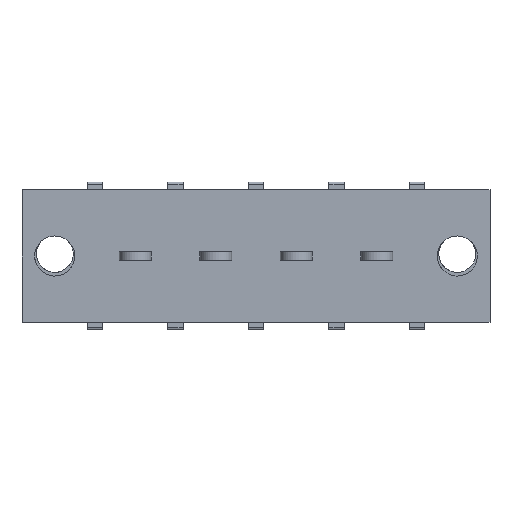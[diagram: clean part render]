
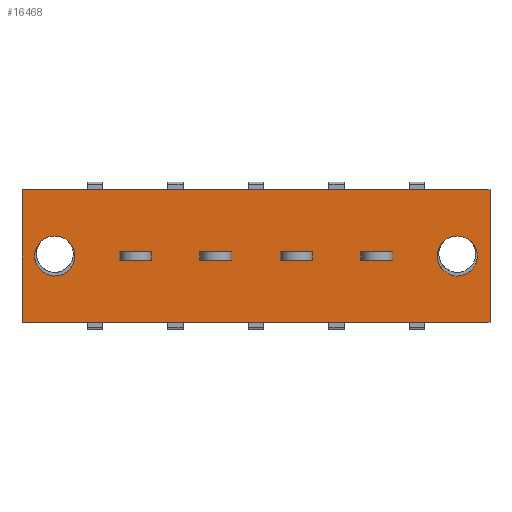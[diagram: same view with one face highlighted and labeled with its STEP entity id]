
A CAD part, front view. The second image highlights one B-rep face of the part: STEP entity #16468.
In plain terms, the highlighted planar face has unit normal (0, -1, 0).
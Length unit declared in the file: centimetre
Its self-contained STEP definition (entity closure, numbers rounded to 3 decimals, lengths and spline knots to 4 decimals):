
#780=PLANE('',#26870);
#1616=VECTOR('',#17753,1.);
#1811=VECTOR('',#18173,1.);
#1826=VECTOR('',#18192,1.);
#1840=VECTOR('',#18243,1.);
#1842=VECTOR('',#18246,1.);
#1891=VECTOR('',#18341,1.);
#1902=VECTOR('',#18355,1.);
#1903=VECTOR('',#18356,1.);
#1904=VECTOR('',#18357,1.);
#1905=VECTOR('',#18358,1.);
#1906=VECTOR('',#18359,1.);
#1907=VECTOR('',#18360,1.);
#1908=VECTOR('',#18361,1.);
#1909=VECTOR('',#18362,1.);
#1910=VECTOR('',#18363,1.);
#1911=VECTOR('',#18364,1.);
#1912=VECTOR('',#18365,1.);
#1913=VECTOR('',#18366,1.);
#1914=VECTOR('',#18367,1.);
#1915=VECTOR('',#18368,1.);
#3444=LINE('',#22021,#1616);
#3639=LINE('',#22636,#1811);
#3654=LINE('',#22669,#1826);
#3668=LINE('',#22718,#1840);
#3670=LINE('',#22722,#1842);
#3719=LINE('',#22843,#1891);
#3730=LINE('',#22866,#1902);
#3731=LINE('',#22869,#1903);
#3732=LINE('',#22871,#1904);
#3733=LINE('',#22873,#1905);
#3734=LINE('',#22874,#1906);
#3735=LINE('',#22877,#1907);
#3736=LINE('',#22879,#1908);
#3737=LINE('',#22881,#1909);
#3738=LINE('',#22882,#1910);
#3739=LINE('',#22885,#1911);
#3740=LINE('',#22887,#1912);
#3741=LINE('',#22889,#1913);
#3742=LINE('',#22890,#1914);
#3743=LINE('',#22892,#1915);
#5205=VERTEX_POINT('',#22020);
#5206=VERTEX_POINT('',#22022);
#5207=VERTEX_POINT('',#22026);
#5401=VERTEX_POINT('',#22637);
#5402=VERTEX_POINT('',#22638);
#5415=VERTEX_POINT('',#22670);
#5428=VERTEX_POINT('',#22719);
#5471=VERTEX_POINT('',#22844);
#5480=VERTEX_POINT('',#22865);
#5481=VERTEX_POINT('',#22867);
#5482=VERTEX_POINT('',#22868);
#5483=VERTEX_POINT('',#22870);
#5484=VERTEX_POINT('',#22872);
#5485=VERTEX_POINT('',#22875);
#5486=VERTEX_POINT('',#22876);
#5487=VERTEX_POINT('',#22878);
#5488=VERTEX_POINT('',#22880);
#5489=VERTEX_POINT('',#22883);
#5490=VERTEX_POINT('',#22884);
#5491=VERTEX_POINT('',#22886);
#5492=VERTEX_POINT('',#22888);
#5493=VERTEX_POINT('',#22891);
#6476=CIRCLE('',#26665,0.19);
#6550=CIRCLE('',#26871,0.19);
#7282=EDGE_CURVE('',#5206,#5205,#3444,.T.);
#7284=EDGE_CURVE('',#5207,#5207,#6476,.T.);
#7565=EDGE_CURVE('',#5401,#5402,#3639,.T.);
#7582=EDGE_CURVE('',#5415,#5401,#3654,.T.);
#7606=EDGE_CURVE('',#5428,#5415,#3668,.T.);
#7608=EDGE_CURVE('',#5402,#5428,#3670,.T.);
#7668=EDGE_CURVE('',#5471,#5205,#3719,.T.);
#7679=EDGE_CURVE('',#5480,#5480,#6550,.T.);
#7680=EDGE_CURVE('',#5481,#5482,#3730,.T.);
#7681=EDGE_CURVE('',#5482,#5483,#3731,.T.);
#7682=EDGE_CURVE('',#5483,#5484,#3732,.T.);
#7683=EDGE_CURVE('',#5484,#5481,#3733,.T.);
#7684=EDGE_CURVE('',#5485,#5486,#3734,.T.);
#7685=EDGE_CURVE('',#5486,#5487,#3735,.T.);
#7686=EDGE_CURVE('',#5487,#5488,#3736,.T.);
#7687=EDGE_CURVE('',#5488,#5485,#3737,.T.);
#7688=EDGE_CURVE('',#5489,#5490,#3738,.T.);
#7689=EDGE_CURVE('',#5490,#5491,#3739,.T.);
#7690=EDGE_CURVE('',#5491,#5492,#3740,.T.);
#7691=EDGE_CURVE('',#5492,#5489,#3741,.T.);
#7692=EDGE_CURVE('',#5493,#5206,#3742,.T.);
#7693=EDGE_CURVE('',#5493,#5471,#3743,.T.);
#10991=ORIENTED_EDGE('',*,*,#7284,.T.);
#10992=ORIENTED_EDGE('',*,*,#7679,.T.);
#10993=ORIENTED_EDGE('',*,*,#7582,.F.);
#10994=ORIENTED_EDGE('',*,*,#7606,.F.);
#10995=ORIENTED_EDGE('',*,*,#7608,.F.);
#10996=ORIENTED_EDGE('',*,*,#7565,.F.);
#10997=ORIENTED_EDGE('',*,*,#7680,.T.);
#10998=ORIENTED_EDGE('',*,*,#7681,.T.);
#10999=ORIENTED_EDGE('',*,*,#7682,.T.);
#11000=ORIENTED_EDGE('',*,*,#7683,.T.);
#11001=ORIENTED_EDGE('',*,*,#7684,.T.);
#11002=ORIENTED_EDGE('',*,*,#7685,.T.);
#11003=ORIENTED_EDGE('',*,*,#7686,.T.);
#11004=ORIENTED_EDGE('',*,*,#7687,.T.);
#11005=ORIENTED_EDGE('',*,*,#7688,.T.);
#11006=ORIENTED_EDGE('',*,*,#7689,.T.);
#11007=ORIENTED_EDGE('',*,*,#7690,.T.);
#11008=ORIENTED_EDGE('',*,*,#7691,.T.);
#11009=ORIENTED_EDGE('',*,*,#7692,.T.);
#11010=ORIENTED_EDGE('',*,*,#7282,.T.);
#11011=ORIENTED_EDGE('',*,*,#7668,.F.);
#11012=ORIENTED_EDGE('',*,*,#7693,.F.);
#14471=EDGE_LOOP('',(#10991));
#14472=EDGE_LOOP('',(#10992));
#14473=EDGE_LOOP('',(#10993,#10994,#10995,#10996));
#14474=EDGE_LOOP('',(#10997,#10998,#10999,#11000));
#14475=EDGE_LOOP('',(#11001,#11002,#11003,#11004));
#14476=EDGE_LOOP('',(#11005,#11006,#11007,#11008));
#14477=EDGE_LOOP('',(#11009,#11010,#11011,#11012));
#15489=FACE_BOUND('',#14471,.T.);
#15490=FACE_BOUND('',#14472,.T.);
#15491=FACE_BOUND('',#14473,.T.);
#15492=FACE_BOUND('',#14474,.T.);
#15493=FACE_BOUND('',#14475,.T.);
#15494=FACE_BOUND('',#14476,.T.);
#15495=FACE_BOUND('',#14477,.T.);
#16468=ADVANCED_FACE('',(#15489,#15490,#15491,#15492,#15493,#15494,#15495),
#780,.T.);
#17753=DIRECTION('',(0.,0.,1.));
#17757=DIRECTION('',(0.,1.,0.));
#17758=DIRECTION('',(0.19,0.,0.));
#18173=DIRECTION('',(0.,0.,1.));
#18192=DIRECTION('',(1.,0.,0.));
#18243=DIRECTION('',(0.,0.,-1.));
#18246=DIRECTION('',(-1.,0.,0.));
#18341=DIRECTION('',(1.,0.,0.));
#18352=DIRECTION('',(0.,-1.,0.));
#18353=DIRECTION('',(0.,1.,0.));
#18354=DIRECTION('',(0.19,0.,0.));
#18355=DIRECTION('',(-1.,0.,0.));
#18356=DIRECTION('',(0.,0.,1.));
#18357=DIRECTION('',(1.,0.,0.));
#18358=DIRECTION('',(0.,0.,-1.));
#18359=DIRECTION('',(-1.,0.,0.));
#18360=DIRECTION('',(0.,0.,1.));
#18361=DIRECTION('',(1.,0.,0.));
#18362=DIRECTION('',(0.,0.,-1.));
#18363=DIRECTION('',(-1.,0.,0.));
#18364=DIRECTION('',(0.,0.,1.));
#18365=DIRECTION('',(1.,0.,0.));
#18366=DIRECTION('',(0.,0.,-1.));
#18367=DIRECTION('',(1.,0.,0.));
#18368=DIRECTION('',(0.,0.,1.));
#22020=CARTESIAN_POINT('',(3.048,0.,0.625));
#22021=CARTESIAN_POINT('',(3.048,0.,-0.625));
#22022=CARTESIAN_POINT('',(3.048,0.,-0.625));
#22025=CARTESIAN_POINT('',(2.738,0.,0.));
#22026=CARTESIAN_POINT('',(2.548,0.,0.));
#22636=CARTESIAN_POINT('',(-0.185,0.,0.));
#22637=CARTESIAN_POINT('',(-0.185,0.,-0.04));
#22638=CARTESIAN_POINT('',(-0.185,0.,0.04));
#22669=CARTESIAN_POINT('',(-0.465,0.,-0.04));
#22670=CARTESIAN_POINT('',(-0.435,0.,-0.04));
#22718=CARTESIAN_POINT('',(-0.435,0.,0.));
#22719=CARTESIAN_POINT('',(-0.435,0.,0.04));
#22722=CARTESIAN_POINT('',(-0.465,0.,0.04));
#22843=CARTESIAN_POINT('',(-1.382,0.,0.625));
#22844=CARTESIAN_POINT('',(-1.382,0.,0.625));
#22863=CARTESIAN_POINT('',(0.,0.,0.));
#22864=CARTESIAN_POINT('',(-1.072,0.,0.));
#22865=CARTESIAN_POINT('',(-1.262,0.,0.));
#22866=CARTESIAN_POINT('',(0.988,0.,-0.04));
#22867=CARTESIAN_POINT('',(2.101,0.,-0.04));
#22868=CARTESIAN_POINT('',(1.851,0.,-0.04));
#22869=CARTESIAN_POINT('',(1.851,0.,0.));
#22870=CARTESIAN_POINT('',(1.851,0.,0.04));
#22871=CARTESIAN_POINT('',(0.988,0.,0.04));
#22872=CARTESIAN_POINT('',(2.101,0.,0.04));
#22873=CARTESIAN_POINT('',(2.101,0.,0.));
#22874=CARTESIAN_POINT('',(0.607,0.,-0.04));
#22875=CARTESIAN_POINT('',(1.339,0.,-0.04));
#22876=CARTESIAN_POINT('',(1.089,0.,-0.04));
#22877=CARTESIAN_POINT('',(1.089,0.,0.));
#22878=CARTESIAN_POINT('',(1.089,0.,0.04));
#22879=CARTESIAN_POINT('',(0.607,0.,0.04));
#22880=CARTESIAN_POINT('',(1.339,0.,0.04));
#22881=CARTESIAN_POINT('',(1.339,0.,0.));
#22882=CARTESIAN_POINT('',(0.226,0.,-0.04));
#22883=CARTESIAN_POINT('',(0.577,0.,-0.04));
#22884=CARTESIAN_POINT('',(0.327,0.,-0.04));
#22885=CARTESIAN_POINT('',(0.327,0.,0.));
#22886=CARTESIAN_POINT('',(0.327,0.,0.04));
#22887=CARTESIAN_POINT('',(0.226,0.,0.04));
#22888=CARTESIAN_POINT('',(0.577,0.,0.04));
#22889=CARTESIAN_POINT('',(0.577,0.,0.));
#22890=CARTESIAN_POINT('',(-1.382,0.,-0.625));
#22891=CARTESIAN_POINT('',(-1.382,0.,-0.625));
#22892=CARTESIAN_POINT('',(-1.382,0.,-0.625));
#26665=AXIS2_PLACEMENT_3D('',#22025,#17757,#17758);
#26870=AXIS2_PLACEMENT_3D('',#22863,#18352,$);
#26871=AXIS2_PLACEMENT_3D('',#22864,#18353,#18354);
